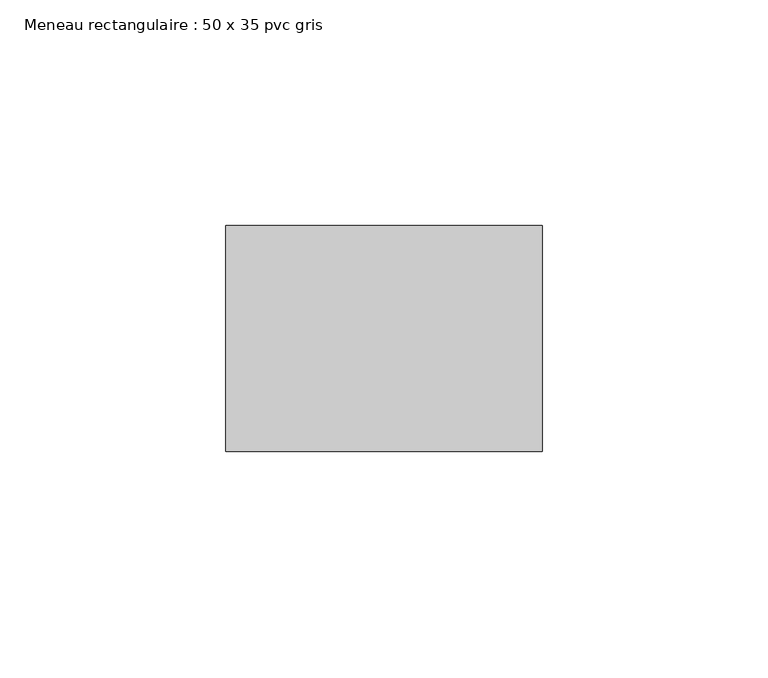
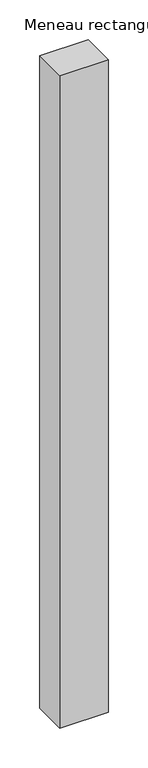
"""IFC4 building model written with IfcOpenShell, lengths in millimetres: member geometry, Meneau rectangulaire : 50 x 35 pvc gris."""

import ifcopenshell
import ifcopenshell.guid

model = None  # the IFC model being written
_history = None  # IfcOwnerHistory: only IFC2X3 demands one
_inside = {}  # id of a spatial element -> (the spatial element, [elements in it])
_under = {}  # id of a project, library or spatial element -> (it, [spatial elements below it])
_declared = {}  # id of a project -> (the project, [libraries it declares])
_typed = {}  # id of a type object -> (the type object, [elements of that type])
_made_of = {}  # id of a material, layer set ... -> (it, [elements and type objects made of it])


def new_model(schema):
    """Start an empty IFC model of exactly this schema.

    Asked for "IFC4X3", IfcOpenShell would pick the latest addendum, in which some entities
    have other attributes; the version numbers below select the first issue.
    IFC2X3 requires an IfcOwnerHistory on every rooted entity: one is made here for all.
    """
    global model, _history
    if schema == "IFC4X3":
        model = ifcopenshell.file(schema_version=(4, 3, 0, 0))
    else:
        model = ifcopenshell.file(schema=schema)
    _inside.clear()
    _under.clear()
    _declared.clear()
    _typed.clear()
    _made_of.clear()
    _history = None
    if model.schema == "IFC2X3":
        org = make("IfcOrganization", Name="unknown")
        user = make(
            "IfcPersonAndOrganization",
            ThePerson=make("IfcPerson", FamilyName="unknown"),
            TheOrganization=org,
        )
        app = make(
            "IfcApplication",
            ApplicationDeveloper=org,
            Version="unknown",
            ApplicationFullName="unknown",
            ApplicationIdentifier="unknown",
        )
        _history = make(
            "IfcOwnerHistory",
            OwningUser=user,
            OwningApplication=app,
            ChangeAction="ADDED",
            CreationDate=0,
        )
    return model


def make(cls, **values):
    """One entity of the class cls with the attributes given. An attribute that is None is left unset."""
    return model.create_entity(
        cls, **{name: value for name, value in values.items() if value is not None}
    )


def rooted(cls, **values):
    """An entity with a GlobalId (a new one), such as an element, a storey or a relation."""
    return make(cls, GlobalId=ifcopenshell.guid.new(), OwnerHistory=_history, **values)


def si_unit(unit_type, name, prefix=None):
    """IfcSIUnit, for example si_unit("LENGTHUNIT", "METRE", prefix="MILLI")."""
    return make("IfcSIUnit", UnitType=unit_type, Prefix=prefix, Name=name)


def assignment(units):
    """IfcUnitAssignment: the units of a project."""
    return None if units is None else make("IfcUnitAssignment", Units=units)


def point(xyz):
    """IfcCartesianPoint."""
    return None if xyz is None else make("IfcCartesianPoint", Coordinates=xyz)


def direction(xyz):
    """IfcDirection."""
    return None if xyz is None else make("IfcDirection", DirectionRatios=xyz)


def frame(location, z_axis=None, x_axis=None):
    """IfcAxis2Placement3D, a coordinate frame: its origin and axes. An axis left out is left unset."""
    return make(
        "IfcAxis2Placement3D",
        Location=point(location),
        Axis=direction(z_axis),
        RefDirection=direction(x_axis),
    )


def origin():
    """The frame at (0, 0, 0) with its axes left unset."""
    return frame((0.0, 0.0, 0.0))


def place(relative_to, where):
    """IfcLocalPlacement: puts the frame where relative to a parent placement (None: the world)."""
    return make(
        "IfcLocalPlacement", PlacementRelTo=relative_to, RelativePlacement=where
    )


def context(
    kind, dimensions, precision=None, world=None, true_north=None, identifier=None
):
    """IfcGeometricRepresentationContext, for example the 3D "Model" context."""
    return make(
        "IfcGeometricRepresentationContext",
        ContextIdentifier=identifier,
        ContextType=kind,
        CoordinateSpaceDimension=dimensions,
        Precision=precision,
        WorldCoordinateSystem=world,
        TrueNorth=true_north,
    )


def project(units=None, contexts=None):
    """IfcProject with its units and contexts."""
    return rooted(
        "IfcProject",
        Name="project",
        RepresentationContexts=contexts,
        UnitsInContext=assignment(units),
    )


def spatial(cls, under=None, at=None, **own):
    """A site, building, storey or space (cls), placed at a placement, below another one or the project."""
    s = rooted(cls, ObjectPlacement=at, **own)
    if under is not None:
        _under.setdefault(under.id(), (under, []))[1].append(s)
    return s


def polyline(points):
    """IfcPolyline through the points."""
    return make("IfcPolyline", Points=[point(p) for p in points])


def outline(outer, holes=None, kind="AREA"):
    """IfcArbitraryClosedProfileDef: a profile drawn as a closed curve; with holes, ...WithVoids."""
    if holes is None:
        return make("IfcArbitraryClosedProfileDef", ProfileType=kind, OuterCurve=outer)
    return make(
        "IfcArbitraryProfileDefWithVoids",
        ProfileType=kind,
        OuterCurve=outer,
        InnerCurves=holes,
    )


def extrude(swept, where, along, depth):
    """IfcExtrudedAreaSolid: the profile swept, set in the frame where, extruded along a direction by depth."""
    return make(
        "IfcExtrudedAreaSolid",
        SweptArea=swept,
        Position=where,
        ExtrudedDirection=direction(along),
        Depth=depth,
    )


def shape(context_of_items, identifier, shape_type, items):
    """IfcShapeRepresentation: the items that make up one representation, for example the "Body"."""
    return make(
        "IfcShapeRepresentation",
        ContextOfItems=context_of_items,
        RepresentationIdentifier=identifier,
        RepresentationType=shape_type,
        Items=items,
    )


def source(mapping_origin, context_of_items, identifier, shape_type, items):
    """IfcRepresentationMap: a shape defined once, which mapped items show again and again."""
    return make(
        "IfcRepresentationMap",
        MappingOrigin=mapping_origin,
        MappedRepresentation=shape(context_of_items, identifier, shape_type, items),
    )


def transform(
    local_origin,
    x_axis=None,
    y_axis=None,
    z_axis=None,
    scale=None,
    scale2=None,
    scale3=None,
    uniform=True,
):
    """IfcCartesianTransformationOperator3D, or its non-uniform kind. x_axis, y_axis, z_axis: its Axis1, 2, 3."""
    if uniform:
        return make(
            "IfcCartesianTransformationOperator3D",
            Axis1=direction(x_axis),
            Axis2=direction(y_axis),
            LocalOrigin=point(local_origin),
            Scale=scale,
            Axis3=direction(z_axis),
        )
    return make(
        "IfcCartesianTransformationOperator3DnonUniform",
        Axis1=direction(x_axis),
        Axis2=direction(y_axis),
        LocalOrigin=point(local_origin),
        Scale=scale,
        Axis3=direction(z_axis),
        Scale2=scale2,
        Scale3=scale3,
    )


def mapped(mapping_source, mapping_target):
    """IfcMappedItem: shows the shape of a source again, moved by a transform."""
    return make(
        "IfcMappedItem", MappingSource=mapping_source, MappingTarget=mapping_target
    )


def made_of(thing, what):
    """Note that an element or type object is made of a material, layer set ...; save() writes the relation."""
    if what is not None:
        _made_of.setdefault(what.id(), (what, []))[1].append(thing)
    return thing


def element(
    cls,
    number,
    at=None,
    inside=None,
    cuts=None,
    type_object=None,
    material=None,
    context=None,
    identifier="Body",
    shape_type=None,
    held_by="IfcProductDefinitionShape",
    body=None,
    shapes=None,
    **own,
):
    """One element of the class cls, such as IfcWall. Its Tag is "e" and its number.

    at: its placement. inside: the storey or other place that contains it. cuts: it is an
    opening in that element (IfcRelVoidsElement). A single representation is given by context,
    identifier, shape_type and body (its items); several are given by shapes. held_by: the class
    of the entity that holds the representations. save() writes the other relations.
    """
    e = rooted(cls, Tag="e%d" % number, ObjectPlacement=at, **own)
    if body is not None:
        shapes = [shape(context, identifier, shape_type, body)]
    if shapes is not None:
        e.Representation = make(held_by, Representations=shapes)
    if inside is not None:
        _inside.setdefault(inside.id(), (inside, []))[1].append(e)
    if cuts is not None:
        rooted(
            "IfcRelVoidsElement", RelatingBuildingElement=cuts, RelatedOpeningElement=e
        )
    if type_object is not None:
        _typed.setdefault(type_object.id(), (type_object, []))[1].append(e)
    return made_of(e, material)


def aggregate(whole, parts):
    """IfcRelAggregates: a whole, such as a stair, and the parts it consists of."""
    return rooted("IfcRelAggregates", RelatingObject=whole, RelatedObjects=parts)


def save(model, path):
    """Write the relations noted so far, then the file.

    IfcRelAggregates (storeys below a building ...), IfcRelContainedInSpatialStructure (elements
    in a storey), IfcRelDefinesByType, IfcRelAssociatesMaterial and IfcRelDeclares: one each for
    every whole, place, type object, material and project.
    """
    for whole, parts in _under.values():
        aggregate(whole, parts)
    for where, things in _inside.values():
        rooted(
            "IfcRelContainedInSpatialStructure",
            RelatedElements=things,
            RelatingStructure=where,
        )
    for kind, things in _typed.values():
        rooted("IfcRelDefinesByType", RelatedObjects=things, RelatingType=kind)
    for what, things in _made_of.values():
        rooted("IfcRelAssociatesMaterial", RelatedObjects=things, RelatingMaterial=what)
    for by, libraries in _declared.values():
        rooted("IfcRelDeclares", RelatingContext=by, RelatedDefinitions=libraries)
    model.write(path)


def meneau_rectangulaire_50_x_35_pvc_gris_8ca6f3a9(model_context):
    return source(origin(), model_context, "Body", "SweptSolid", [
        extrude(outline(polyline([(0.0, 0.0), (0.0, -50.0), (-70.0, -50.0), (-70.0, 0.0), (0.0, 0.0)])), frame((0.0, 0.0, -999.0), z_axis=(0.0, 0.0, 1.0), x_axis=(1.0, 0.0, 0.0)), (0.0, 0.0, 1.0), 999.0),
    ])


if __name__ == "__main__":
    model = new_model("IFC4")
    model_context = context("Model", 3, world=origin())
    ifc_project = project(units=[si_unit("LENGTHUNIT", "METRE", prefix="MILLI")], contexts=[model_context])
    site = spatial("IfcSite", under=ifc_project)
    building = spatial("IfcBuilding", under=site)
    placement = place(None, origin())
    meneau_rectangulaire_50_x_35_pvc_gris_shape = meneau_rectangulaire_50_x_35_pvc_gris_8ca6f3a9(model_context)
    element("IfcMember", 1, ObjectType="Meneau rectangulaire : 50 x 35 pvc gris", at=placement, inside=building, context=model_context, shape_type="MappedRepresentation", body=[
        mapped(meneau_rectangulaire_50_x_35_pvc_gris_shape, transform((0.0, 0.0, 0.0), x_axis=(1.0, 0.0, 0.0), y_axis=(0.0, 1.0, 0.0), z_axis=(0.0, 0.0, 1.0))),
    ])
    save(model, "model.ifc")
